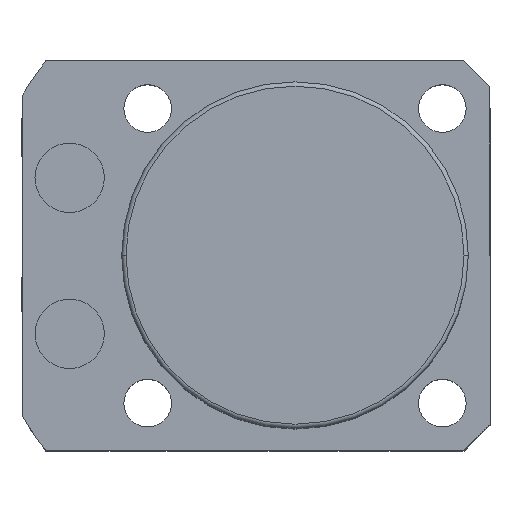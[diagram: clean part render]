
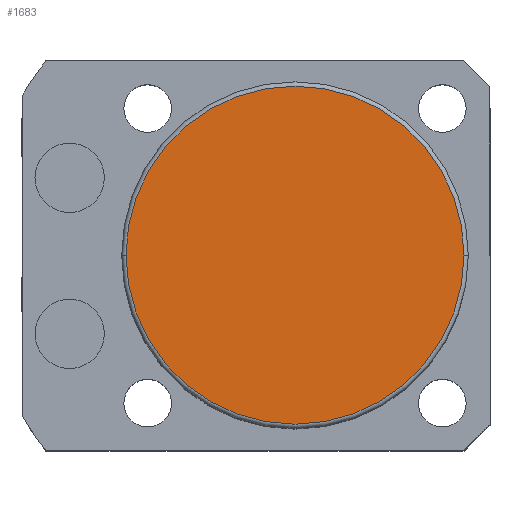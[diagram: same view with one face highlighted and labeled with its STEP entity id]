
A CAD part, top view. The second image highlights one B-rep face of the part: STEP entity #1683.
In plain terms, the highlighted planar face has unit normal (0, 0, 1).
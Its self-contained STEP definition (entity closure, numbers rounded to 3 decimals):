
#64 = PLANE ( 'NONE',  #2099 ) ;
#99 = DIRECTION ( 'NONE',  ( 0., 0., 1. ) ) ;
#109 = DIRECTION ( 'NONE',  ( 1., 0., 0. ) ) ;
#126 = DIRECTION ( 'NONE',  ( 1., 0., 0. ) ) ;
#192 = CARTESIAN_POINT ( 'NONE',  ( -19.5, 0., 53.5 ) ) ;
#240 = EDGE_CURVE ( 'NONE', #554, #1658, #1953, .T. ) ;
#426 = CARTESIAN_POINT ( 'NONE',  ( 0., 0., 53.5 ) ) ;
#513 = AXIS2_PLACEMENT_3D ( 'NONE', #2341, #1210, #1952 ) ;
#554 = VERTEX_POINT ( 'NONE', #192 ) ;
#696 = ORIENTED_EDGE ( 'NONE', *, *, #1818, .T. ) ;
#1013 = EDGE_LOOP ( 'NONE', ( #696, #1482 ) ) ;
#1210 = DIRECTION ( 'NONE',  ( 0., 0., 1. ) ) ;
#1344 = FACE_OUTER_BOUND ( 'NONE', #1013, .T. ) ;
#1482 = ORIENTED_EDGE ( 'NONE', *, *, #240, .T. ) ;
#1567 = CIRCLE ( 'NONE', #1705, 19.5 ) ;
#1658 = VERTEX_POINT ( 'NONE', #2037 ) ;
#1683 = ADVANCED_FACE ( 'NONE', ( #1344 ), #64, .T. ) ;
#1705 = AXIS2_PLACEMENT_3D ( 'NONE', #1890, #1948, #126 ) ;
#1818 = EDGE_CURVE ( 'NONE', #1658, #554, #1567, .T. ) ;
#1890 = CARTESIAN_POINT ( 'NONE',  ( 0., 0., 53.5 ) ) ;
#1948 = DIRECTION ( 'NONE',  ( 0., 0., 1. ) ) ;
#1952 = DIRECTION ( 'NONE',  ( 1., 0., 0. ) ) ;
#1953 = CIRCLE ( 'NONE', #513, 19.5 ) ;
#2037 = CARTESIAN_POINT ( 'NONE',  ( 19.5, 0., 53.5 ) ) ;
#2099 = AXIS2_PLACEMENT_3D ( 'NONE', #426, #99, #109 ) ;
#2341 = CARTESIAN_POINT ( 'NONE',  ( 0., 0., 53.5 ) ) ;
